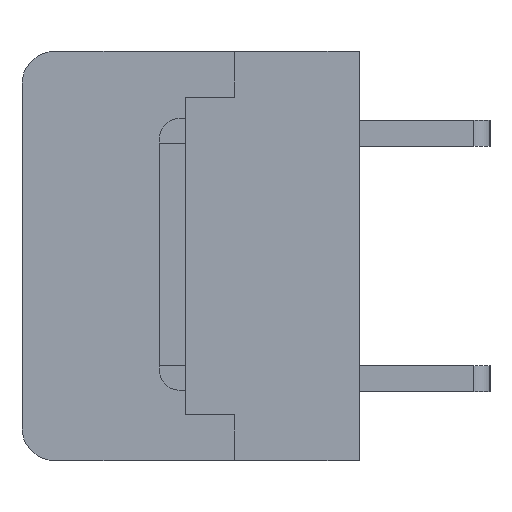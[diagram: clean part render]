
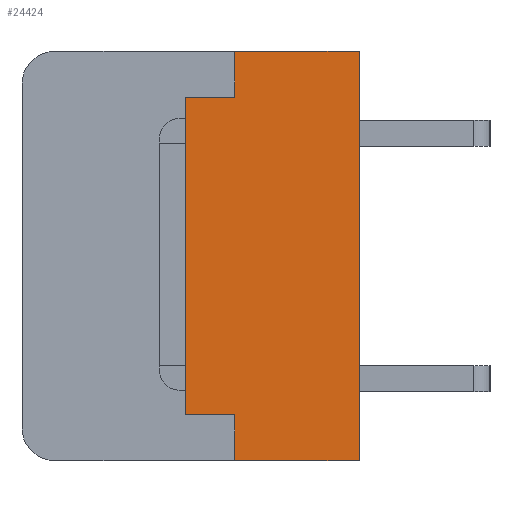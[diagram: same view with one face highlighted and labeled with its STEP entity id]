
A CAD part, left-side view. The second image highlights one B-rep face of the part: STEP entity #24424.
In plain terms, the highlighted planar face has unit normal (-1, 0, 0).
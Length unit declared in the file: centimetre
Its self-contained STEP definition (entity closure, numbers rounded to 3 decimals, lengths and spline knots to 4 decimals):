
#1473=PLANE('',#39785);
#2191=VECTOR('',#25716,1.);
#2300=VECTOR('',#25881,1.);
#2334=VECTOR('',#25916,1.);
#3612=VECTOR('',#28760,1.);
#3802=VECTOR('',#29190,1.);
#3803=VECTOR('',#29191,1.);
#3804=VECTOR('',#29192,1.);
#3805=VECTOR('',#29193,1.);
#4779=LINE('',#31808,#2191);
#4888=LINE('',#32052,#2300);
#4922=LINE('',#32119,#2334);
#6200=LINE('',#36184,#3612);
#6390=LINE('',#36787,#3802);
#6391=LINE('',#36789,#3803);
#6392=LINE('',#36790,#3804);
#6393=LINE('',#36792,#3805);
#7301=VERTEX_POINT('',#31807);
#7302=VERTEX_POINT('',#31809);
#7360=VERTEX_POINT('',#31976);
#7397=VERTEX_POINT('',#32051);
#7429=VERTEX_POINT('',#32118);
#7430=VERTEX_POINT('',#32120);
#8825=VERTEX_POINT('',#36788);
#8826=VERTEX_POINT('',#36791);
#10404=EDGE_CURVE('',#7301,#7302,#4779,.T.);
#10525=EDGE_CURVE('',#7397,#7360,#4888,.T.);
#10559=EDGE_CURVE('',#7429,#7430,#4922,.T.);
#12427=EDGE_CURVE('',#7360,#7429,#6200,.T.);
#12705=EDGE_CURVE('',#8825,#7397,#6390,.T.);
#12706=EDGE_CURVE('',#7302,#8825,#6391,.T.);
#12707=EDGE_CURVE('',#8826,#7301,#6392,.T.);
#12708=EDGE_CURVE('',#7430,#8826,#6393,.T.);
#19346=ORIENTED_EDGE('',*,*,#12705,.F.);
#19347=ORIENTED_EDGE('',*,*,#12706,.F.);
#19348=ORIENTED_EDGE('',*,*,#10404,.F.);
#19349=ORIENTED_EDGE('',*,*,#12707,.F.);
#19350=ORIENTED_EDGE('',*,*,#12708,.F.);
#19351=ORIENTED_EDGE('',*,*,#10559,.F.);
#19352=ORIENTED_EDGE('',*,*,#12427,.F.);
#19353=ORIENTED_EDGE('',*,*,#10525,.F.);
#21606=EDGE_LOOP('',(#19346,#19347,#19348,#19349,#19350,#19351,#19352,#19353));
#23070=FACE_BOUND('',#21606,.T.);
#24424=ADVANCED_FACE('',(#23070),#1473,.F.);
#25716=DIRECTION('',(0.,0.,1.));
#25881=DIRECTION('',(0.,-1.,0.));
#25916=DIRECTION('',(0.,1.,0.));
#28760=DIRECTION('',(0.,0.,-1.));
#29189=DIRECTION('',(1.,0.,0.));
#29190=DIRECTION('',(0.,0.,1.));
#29191=DIRECTION('',(0.,-1.,0.));
#29192=DIRECTION('',(0.,1.,0.));
#29193=DIRECTION('',(0.,0.,1.));
#31807=CARTESIAN_POINT('',(-1.382,0.53,-0.485));
#31808=CARTESIAN_POINT('',(-1.382,0.53,-0.485));
#31809=CARTESIAN_POINT('',(-1.382,0.53,0.485));
#31976=CARTESIAN_POINT('',(-1.382,0.,0.625));
#32051=CARTESIAN_POINT('',(-1.382,0.38,0.625));
#32052=CARTESIAN_POINT('',(-1.382,0.38,0.625));
#32118=CARTESIAN_POINT('',(-1.382,0.,-0.625));
#32119=CARTESIAN_POINT('',(-1.382,0.,-0.625));
#32120=CARTESIAN_POINT('',(-1.382,0.38,-0.625));
#36184=CARTESIAN_POINT('',(-1.382,0.,0.625));
#36786=CARTESIAN_POINT('',(-1.382,0.2532,0.));
#36787=CARTESIAN_POINT('',(-1.382,0.38,0.485));
#36788=CARTESIAN_POINT('',(-1.382,0.38,0.485));
#36789=CARTESIAN_POINT('',(-1.382,0.53,0.485));
#36790=CARTESIAN_POINT('',(-1.382,0.38,-0.485));
#36791=CARTESIAN_POINT('',(-1.382,0.38,-0.485));
#36792=CARTESIAN_POINT('',(-1.382,0.38,-0.625));
#39785=AXIS2_PLACEMENT_3D('',#36786,#29189,$);
